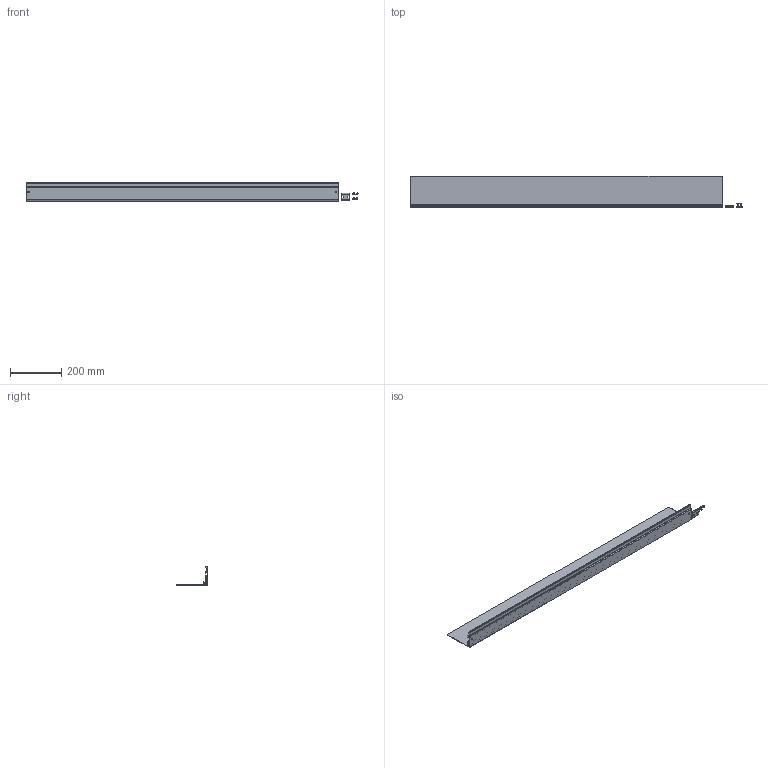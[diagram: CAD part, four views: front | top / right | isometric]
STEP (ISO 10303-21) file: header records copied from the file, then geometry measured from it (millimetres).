
FILE_DESCRIPTION (( 'STEP AP203' ), '1' );
FILE_NAME ('WALL MOUNT TRAY WITH JOINER - 4FT.STEP', '2023-05-25T19:11:03', ( '' ), ( '' ), 'SwSTEP 2.0', 'SolidWorks 2022', '' );
FILE_SCHEMA (( 'CONFIG_CONTROL_DESIGN' ));
Length unit declared in the file: millimetre
Products named in the file (7): WALL MOUNT TRAY WITH JOINER - 4FT; BAS-000025-00_BAS-000025-4Y; NUT-000075-00_NUT-000075-00; FHS-M4-10-Penn; SCW-000545-00_SCW-000545-00; PLA-000077-00_PLA-000077-0X; BAS-000025-00_BAS-000025-40 (4FT)
Assembly tree (9 placements, depth 3):
  WALL MOUNT TRAY WITH JOINER - 4FT
    BAS-000025-00_BAS-000025-4Y
      BAS-000025-00_BAS-000025-40 (4FT)
      FHS-M4-10-Penn  x2
    SCW-000545-00_SCW-000545-00  x2
    NUT-000075-00_NUT-000075-00  x2
    PLA-000077-00_PLA-000077-0X
Bounding box: 1298.64 x 124.5 x 72.5 mm (x, y, z)
Volume: 666041.3 mm3; surface area: 563915.6 mm2
Topology: 8 solids, 12 shells, 476 faces, 1242 edges, 790 vertices
Faces by surface type: cylinder 164, plane 102, cone 100, bspline 82, torus 28
Entity records: 16741 total; most frequent: CARTESIAN_POINT 9591, ORIENTED_EDGE 1482, DIRECTION 1147, EDGE_CURVE 743, VERTEX_POINT 478, AXIS2_PLACEMENT_3D 435, EDGE_LOOP 297, FACE_OUTER_BOUND 283
